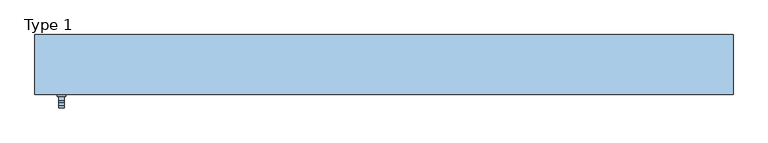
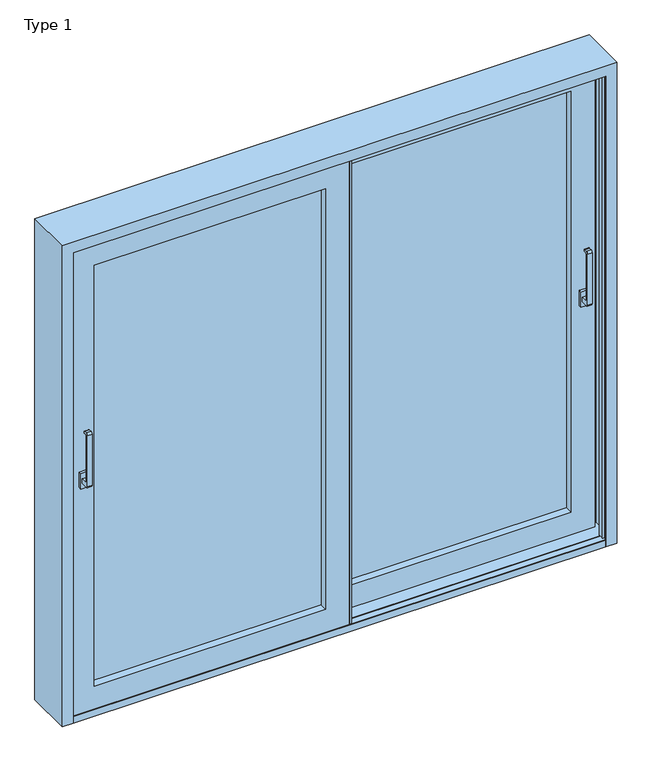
"""IFC4 building model written with IfcOpenShell, lengths in millimetres: window geometry, ETEM_ES70_Double_Fly Screen_Lift_Sliding_FR : Type 1."""

from ifc_helpers import new_model, si_unit, point, frame, frame_2d, origin, place, context, project, spatial, polyline, circle_curve, ellipse_curve, trimmed, segment, composite_curve, outline, extrude, faceted_brep, source, transform, mapped, element, save
from ifc_brep_helpers import plane_surface, cylinder_surface, revolved_surface, advanced_brep


def type_1_7f6ca0e9(model_context):
    return source(origin(), model_context, "Body", "SolidModel", [
        extrude(outline(polyline([(1123.5, 7.6), (1093.5, 7.6), (1093.5, 20.6), (1123.5, 20.6), (1123.5, 7.6)])), frame((0.0, 0.0, 1065.0), z_axis=(0.0, 0.0, 1.0), x_axis=(1.0, 0.0, 0.0)), (0.0, 0.0, 1.0), 70.0),
        extrude(outline(composite_curve([segment(polyline([(7.6, 1090.0), (-23.9736848, 1090.0)]), True, "CONTINUOUS"), segment(trimmed(circle_curve(frame_2d((-23.9736848, 1098.4263152)), 8.4263152), [point((-23.9736848, 1090.0))], [point((-32.4, 1098.4263152))], False, "CARTESIAN"), True, "CONTINUOUS"), segment(polyline([(-32.4, 1098.4263152), (-32.4, 1331.5736848)]), True, "CONTINUOUS"), segment(trimmed(circle_curve(frame_2d((-23.9736848, 1331.5736848)), 8.4263152), [point((-32.4, 1331.5736848))], [point((-23.9736848, 1340.0))], False, "CARTESIAN"), True, "CONTINUOUS"), segment(polyline([(-23.9736848, 1340.0), (-12.4, 1340.0)]), True, "CONTINUOUS"), segment(trimmed(circle_curve(frame_2d((-12.4, 1335.0)), 5.0), [point((-12.4, 1340.0))], [point((-12.4, 1330.0))], False, "CARTESIAN"), True, "CONTINUOUS"), segment(polyline([(-12.4, 1330.0), (-18.8644661, 1330.0)]), True, "CONTINUOUS"), segment(trimmed(circle_curve(frame_2d((-18.8644661, 1326.4644661)), 3.5355339), [point((-18.8644661, 1330.0))], [point((-22.4, 1326.4644661))], True, "CARTESIAN"), True, "CONTINUOUS"), segment(polyline([(-22.4, 1326.4644661), (-22.4, 1113.5355339)]), True, "CONTINUOUS"), segment(trimmed(circle_curve(frame_2d((-18.8644661, 1113.5355339)), 3.5355339), [point((-22.4, 1113.5355339))], [point((-18.8644661, 1110.0))], True, "CARTESIAN"), True, "CONTINUOUS"), segment(polyline([(-18.8644661, 1110.0), (7.6, 1110.0), (7.6, 1090.0)]), True, "CONTINUOUS")], self_intersect=False)), frame((1098.5, 0.0, 0.0), z_axis=(1.0, 0.0, 0.0), x_axis=(0.0, 1.0, 0.0)), (0.0, 0.0, 1.0), 20.0),
        extrude(outline(polyline([(-1093.5, -82.4), (-1123.5, -82.4), (-1123.5, -69.4), (-1093.5, -69.4), (-1093.5, -82.4)])), frame((0.0, 0.0, 1065.0), z_axis=(0.0, 0.0, 1.0), x_axis=(1.0, 0.0, 0.0)), (0.0, 0.0, 1.0), 70.0),
        extrude(outline(composite_curve([segment(polyline([(-82.4, 1090.0), (-113.9736848, 1090.0)]), True, "CONTINUOUS"), segment(trimmed(circle_curve(frame_2d((-113.9736848, 1098.4263152)), 8.4263152), [point((-113.9736848, 1090.0))], [point((-122.4, 1098.4263152))], False, "CARTESIAN"), True, "CONTINUOUS"), segment(polyline([(-122.4, 1098.4263152), (-122.4, 1331.5736848)]), True, "CONTINUOUS"), segment(trimmed(circle_curve(frame_2d((-113.9736848, 1331.5736848)), 8.4263152), [point((-122.4, 1331.5736848))], [point((-113.9736848, 1340.0))], False, "CARTESIAN"), True, "CONTINUOUS"), segment(polyline([(-113.9736848, 1340.0), (-102.4, 1340.0)]), True, "CONTINUOUS"), segment(trimmed(circle_curve(frame_2d((-102.4, 1335.0)), 5.0), [point((-102.4, 1340.0))], [point((-102.4, 1330.0))], False, "CARTESIAN"), True, "CONTINUOUS"), segment(polyline([(-102.4, 1330.0), (-108.8644661, 1330.0)]), True, "CONTINUOUS"), segment(trimmed(circle_curve(frame_2d((-108.8644661, 1326.4644661)), 3.5355339), [point((-108.8644661, 1330.0))], [point((-112.4, 1326.4644661))], True, "CARTESIAN"), True, "CONTINUOUS"), segment(polyline([(-112.4, 1326.4644661), (-112.4, 1113.5355339)]), True, "CONTINUOUS"), segment(trimmed(circle_curve(frame_2d((-108.8644661, 1113.5355339)), 3.5355339), [point((-112.4, 1113.5355339))], [point((-108.8644661, 1110.0))], True, "CARTESIAN"), True, "CONTINUOUS"), segment(polyline([(-108.8644661, 1110.0), (-82.4, 1110.0), (-82.4, 1090.0)]), True, "CONTINUOUS")], self_intersect=False)), frame((-1118.5, 0.0, 0.0), z_axis=(1.0, 0.0, 0.0), x_axis=(0.0, 1.0, 0.0)), (0.0, 0.0, 1.0), 20.0),
        faceted_brep([(46.5, -57.0, 2161.0), (46.5, -69.4, 2161.0), (46.5, -69.4, 30.0), (46.5, -57.0, 30.0), (-1161.0, -69.4, 2161.0), (-1161.0, -69.4, 30.0), (-56.5, -69.4, 133.0), (-1058.0, -69.4, 133.0), (-1058.0, -69.4, 2058.0), (-56.5, -69.4, 2058.0), (-1161.0, -57.0, 30.0), (-1161.0, -57.0, 2161.0), (15.4, -57.0, 2129.9), (-1129.9, -57.0, 2129.9), (-1129.9, -57.0, 61.1), (15.4, -57.0, 61.1), (15.4, -11.8, 2129.9), (15.4, -11.8, 61.1), (-1129.9, -11.8, 61.1), (46.5, -11.8, 2161.0), (-1161.0, -11.8, 2161.0), (-1161.0, -11.8, 30.0), (46.5, -11.8, 30.0), (-1129.9, -11.8, 2129.9), (46.5, 0.6, 2161.0), (46.5, 0.6, 30.0), (-1161.0, 0.6, 30.0), (-1161.0, 0.6, 2161.0), (-56.5, 0.6, 2058.0), (-1058.0, 0.6, 2058.0), (-1058.0, 0.6, 133.0), (-56.5, 0.6, 133.0)], [[[0, 1, 2, 3]], [[1, 4, 5, 2], [6, 7, 8, 9]], [[3, 2, 5, 10]], [[3, 10, 11, 0], [12, 13, 14, 15]], [[16, 12, 15, 17]], [[17, 15, 14, 18]], [[19, 20, 21, 22], [17, 18, 23, 16]], [[24, 19, 22, 25]], [[25, 22, 21, 26]], [[25, 26, 27, 24], [28, 29, 30, 31]], [[9, 28, 31, 6]], [[6, 31, 30, 7]], [[10, 5, 4, 11]], [[18, 14, 13, 23]], [[26, 21, 20, 27]], [[7, 30, 29, 8]], [[11, 4, 1, 0]], [[23, 13, 12, 16]], [[27, 20, 19, 24]], [[8, 29, 28, 9]]]),
        faceted_brep([(-46.5, 78.2, 2161.0), (-46.5, 90.6, 2161.0), (-46.5, 90.6, 30.0), (-46.5, 78.2, 30.0), (1161.0, 90.6, 30.0), (1161.0, 78.2, 30.0), (1161.0, 90.6, 2161.0), (1058.0, 90.6, 133.0), (1058.0, 90.6, 2058.0), (56.5, 90.6, 2058.0), (56.5, 90.6, 133.0), (1161.0, 78.2, 2161.0), (-15.4, 78.2, 61.1), (-15.4, 78.2, 2129.9), (1129.9, 78.2, 2129.9), (1129.9, 78.2, 61.1), (-15.4, 33.0, 2129.9), (-15.4, 33.0, 61.1), (1129.9, 33.0, 61.1), (1129.9, 33.0, 2129.9), (-46.5, 33.0, 30.0), (-46.5, 33.0, 2161.0), (1161.0, 33.0, 2161.0), (1161.0, 33.0, 30.0), (-46.5, 20.6, 2161.0), (-46.5, 20.6, 30.0), (1161.0, 20.6, 30.0), (1161.0, 20.6, 2161.0), (56.5, 20.6, 133.0), (56.5, 20.6, 2058.0), (1058.0, 20.6, 2058.0), (1058.0, 20.6, 133.0)], [[[0, 1, 2, 3]], [[3, 2, 4, 5]], [[2, 1, 6, 4], [7, 8, 9, 10]], [[5, 4, 6, 11]], [[5, 11, 0, 3], [12, 13, 14, 15]], [[16, 13, 12, 17]], [[17, 12, 15, 18]], [[18, 15, 14, 19]], [[20, 21, 22, 23], [18, 19, 16, 17]], [[24, 21, 20, 25]], [[25, 20, 23, 26]], [[26, 23, 22, 27]], [[26, 27, 24, 25], [28, 29, 30, 31]], [[9, 29, 28, 10]], [[10, 28, 31, 7]], [[7, 31, 30, 8]], [[11, 6, 1, 0]], [[19, 14, 13, 16]], [[27, 22, 21, 24]], [[8, 30, 29, 9]]]),
        extrude(outline(polyline([(56.5, -69.4), (46.5, -69.4), (46.5, 16.6), (56.5, 16.6), (56.5, -69.4)])), frame((0.0, 0.0, 30.0), z_axis=(0.0, 0.0, 1.0), x_axis=(1.0, 0.0, 0.0)), (0.0, 0.0, 1.0), 2131.0),
        extrude(outline(polyline([(-56.5, 6.6), (-56.5, 90.6), (-46.5, 90.6), (-46.5, 6.6), (-56.5, 6.6)])), frame((0.0, 0.0, 30.0), z_axis=(0.0, 0.0, 1.0), x_axis=(1.0, 0.0, 0.0)), (0.0, 0.0, 1.0), 2131.0),
        extrude(outline(polyline([(-56.5, -35.3992409), (-1058.0, -35.3992409), (-1058.0, -29.3992409), (-56.5, -29.3992409), (-56.5, -35.3992409)])), frame((0.0, 0.0, 133.0), z_axis=(0.0, 0.0, 1.0), x_axis=(1.0, 0.0, 0.0)), (0.0, 0.0, 1.0), 1925.0),
        extrude(outline(polyline([(56.5, 82.6007591), (1058.0, 82.6007591), (1058.0, 76.6007591), (56.5, 76.6007591), (56.5, 82.6007591)])), frame((0.0, 0.0, 133.0), z_axis=(0.0, 0.0, 1.0), x_axis=(1.0, 0.0, 0.0)), (0.0, 0.0, 1.0), 1925.0),
        faceted_brep([(1200.0, -76.0, 2200.0), (1200.0, -76.0, 0.0), (1200.0, 130.0, 0.0), (1200.0, 130.0, 2200.0), (1183.7, 60.1, 2183.7), (1183.7, 109.1, 2183.7), (1183.7, 109.1, 0.0), (1183.7, 60.1, 0.0), (1160.0, 74.1, 2160.0), (1160.0, 60.1, 2160.0), (1160.0, 60.1, 0.0), (1160.0, 74.1, 0.0), (1152.0, 51.1, 2152.0), (1152.0, 74.1, 2152.0), (1152.0, 74.1, 0.0), (1152.0, 51.1, 0.0), (1183.7, -29.9, 2183.7), (1183.7, 51.1, 2183.7), (1183.7, 51.1, 0.0), (1183.7, -29.9, 0.0), (1152.0, -52.9, 2152.0), (1152.0, -29.9, 2152.0), (1152.0, -29.9, 0.0), (1152.0, -52.9, 0.0), (1160.0, -38.9, 2160.0), (1160.0, -52.9, 2160.0), (1160.0, -52.9, 0.0), (1160.0, -38.9, 0.0), (1183.7, -72.2, 2183.7), (1183.7, -38.9, 2183.7), (1183.7, -38.9, 0.0), (1183.7, -72.2, 0.0), (1152.0, -76.0, 2152.0), (1152.0, -72.2, 2152.0), (1152.0, -72.2, 0.0), (1152.0, -76.0, 0.0), (-1200.0, -76.0, 0.0), (-1200.0, -76.0, 2200.0), (-1200.0, 130.0, 2200.0), (-1200.0, 130.0, 0.0), (-1183.7, 60.1, 0.0), (-1183.7, 109.1, 0.0), (-1183.7, 109.1, 2183.7), (-1183.7, 60.1, 2183.7), (-1160.0, 74.1, 0.0), (-1160.0, 60.1, 0.0), (-1160.0, 60.1, 2160.0), (-1160.0, 74.1, 2160.0), (-1152.0, 51.1, 0.0), (-1152.0, 74.1, 0.0), (-1152.0, 74.1, 2152.0), (-1152.0, 51.1, 2152.0), (-1183.7, -29.9, 0.0), (-1183.7, 51.1, 0.0), (-1183.7, 51.1, 2183.7), (-1183.7, -29.9, 2183.7), (-1152.0, -52.9, 0.0), (-1152.0, -29.9, 0.0), (-1152.0, -29.9, 2152.0), (-1152.0, -52.9, 2152.0), (-1160.0, -38.9, 0.0), (-1160.0, -52.9, 0.0), (-1160.0, -52.9, 2160.0), (-1160.0, -38.9, 2160.0), (-1183.7, -72.2, 0.0), (-1183.7, -38.9, 0.0), (-1183.7, -38.9, 2183.7), (-1183.7, -72.2, 2183.7), (-1152.0, -76.0, 0.0), (-1152.0, -72.2, 0.0), (-1152.0, -72.2, 2152.0), (-1152.0, -76.0, 2152.0), (-1183.7, 118.1, 0.0), (-1183.7, 130.0, 0.0), (-1183.7, 130.0, 2183.7), (-1183.7, 118.1, 2183.7), (1183.7, 118.1, 2183.7), (1183.7, 130.0, 2183.7), (1183.7, 130.0, 0.0), (1183.7, 118.1, 0.0), (1152.0, 109.1, 2152.0), (1152.0, 118.1, 2152.0), (1152.0, 118.1, 0.0), (1152.0, 109.1, 0.0), (-1152.0, 109.1, 0.0), (-1152.0, 118.1, 0.0), (-1152.0, 118.1, 2152.0), (-1152.0, 109.1, 2152.0)], [[[0, 1, 2, 3]], [[4, 5, 6, 7]], [[8, 9, 10, 11]], [[12, 13, 14, 15]], [[16, 17, 18, 19]], [[20, 21, 22, 23]], [[24, 25, 26, 27]], [[28, 29, 30, 31]], [[32, 33, 34, 35]], [[36, 37, 38, 39]], [[40, 41, 42, 43]], [[44, 45, 46, 47]], [[48, 49, 50, 51]], [[52, 53, 54, 55]], [[56, 57, 58, 59]], [[60, 61, 62, 63]], [[64, 65, 66, 67]], [[68, 69, 70, 71]], [[72, 73, 74, 75]], [[76, 77, 78, 79]], [[80, 81, 82, 83]], [[84, 85, 86, 87]], [[38, 37, 0, 3]], [[43, 42, 5, 4]], [[47, 46, 9, 8]], [[51, 50, 13, 12]], [[55, 54, 17, 16]], [[59, 58, 21, 20]], [[63, 62, 25, 24]], [[67, 66, 29, 28]], [[71, 70, 33, 32]], [[75, 74, 77, 76]], [[87, 86, 81, 80]], [[36, 39, 73, 72, 85, 84, 41, 40, 45, 44, 49, 48, 53, 52, 57, 56, 61, 60, 65, 64, 69, 68]], [[73, 39, 38, 3, 2, 78, 77, 74]], [[85, 72, 75, 76, 79, 82, 81, 86]], [[41, 84, 87, 80, 83, 6, 5, 42]], [[45, 40, 43, 4, 7, 10, 9, 46]], [[49, 44, 47, 8, 11, 14, 13, 50]], [[53, 48, 51, 12, 15, 18, 17, 54]], [[57, 52, 55, 16, 19, 22, 21, 58]], [[61, 56, 59, 20, 23, 26, 25, 62]], [[65, 60, 63, 24, 27, 30, 29, 66]], [[69, 64, 67, 28, 31, 34, 33, 70]], [[36, 68, 71, 32, 35, 1, 0, 37]], [[2, 1, 35, 34, 31, 30, 27, 26, 23, 22, 19, 18, 15, 14, 11, 10, 7, 6, 83, 82, 79, 78]]]),
        extrude(outline(polyline([(56.5, 60.6007591), (1058.0, 60.6007591), (1058.0, 54.6007591), (56.5, 54.6007591), (56.5, 60.6007591)])), frame((0.0, 0.0, 133.0), z_axis=(0.0, 0.0, 1.0), x_axis=(1.0, 0.0, 0.0)), (0.0, 0.0, 1.0), 1925.0),
        extrude(outline(polyline([(-56.5, -13.3992409), (-1058.0, -13.3992409), (-1058.0, -7.3992409), (-56.5, -7.3992409), (-56.5, -13.3992409)])), frame((0.0, 0.0, 133.0), z_axis=(0.0, 0.0, 1.0), x_axis=(1.0, 0.0, 0.0)), (0.0, 0.0, 1.0), 1925.0),
        extrude(outline(polyline([(-52.2934837, 101.6138518), (-1100.0, 101.6138518), (-1100.0, 102.6084823), (-52.2934837, 102.6084823), (-52.2934837, 101.6138518)])), frame((0.0, 0.0, 91.0), z_axis=(0.0, 0.0, 1.0), x_axis=(1.0, 0.0, 0.0)), (0.0, 0.0, 1.0), 2009.0),
        advanced_brep(
        [(8.7065163, 97.5946304, 2161.0), (-1161.0, 97.5946304, 2161.0), (-1161.0, 97.5946304, 30.0), (8.7065163, 97.5946304, 30.0), (-26.9934837, 97.5946304, 65.7), (-1125.3, 97.5946304, 65.7), (-1125.3, 97.5946304, 2125.3), (-26.9934837, 97.5946304, 2125.3), (8.7065163, 104.7946304, 2161.0), (8.7065163, 104.7946304, 30.0), (-1161.0, 104.7946304, 30.0), (-1161.0, 104.7946304, 2161.0), (-3.4934837, 104.7946304, 2148.8), (-1148.8, 104.7946304, 2148.8), (-1148.8, 104.7946304, 42.2), (-3.4934837, 104.7946304, 42.2), (-3.4934837, 122.3946304, 2148.8), (-3.4934837, 122.3946304, 42.2), (-1148.8, 122.3946304, 42.2), (8.7065163, 122.3946304, 2161.0), (-1161.0, 122.3946304, 2161.0), (-1161.0, 122.3946304, 30.0), (8.7065163, 122.3946304, 30.0), (-1148.8, 122.3946304, 2148.8), (8.7065163, 129.5946304, 2161.0), (8.7065163, 129.5946304, 30.0), (-1161.0, 129.5946304, 30.0), (-1161.0, 129.5946304, 2161.0), (-26.9934837, 129.5946304, 2125.3), (-1125.3, 129.5946304, 2125.3), (-1125.3, 129.5946304, 65.7), (-26.9934837, 129.5946304, 65.7), (-56.2934837, 102.6084823, 2096.0), (-56.2934837, 129.5946304, 2096.0), (-56.2934837, 129.5946304, 95.0), (-56.2934837, 102.6084823, 95.0), (-1096.0, 129.5946304, 95.0), (-1096.0, 102.6084823, 95.0), (-48.8934837, 102.6084823, 2103.4), (-1103.4, 102.6084823, 2103.4), (-1103.4, 102.6084823, 87.6), (-48.8934837, 102.6084823, 87.6), (-1096.0, 102.6084823, 2096.0), (-1096.0, 129.5946304, 2096.0), (-26.9934837, 106.5946304, 65.7), (-1125.3, 106.5946304, 65.7), (-1125.3, 106.5946304, 2125.3), (-26.9934837, 106.5946304, 2125.3), (-1125.3, 120.3946304, 65.7), (-1125.3, 120.3946304, 2125.3), (-26.9934837, 120.3946304, 65.7), (-26.9934837, 120.3946304, 2125.3), (-47.4934837, 106.5946304, 2104.8), (-47.4934837, 100.4946304, 2104.8), (-47.4934837, 100.4946304, 86.2), (-47.4934837, 106.5946304, 86.2), (-46.9482159, 99.9966838, 2105.3452679), (-46.9482159, 99.9966838, 85.6547321), (-1104.8, 100.4946304, 86.2), (-1104.8, 106.5946304, 86.2), (-1104.8, 106.5946304, 2104.8), (-43.7934837, 120.3946304, 2108.5), (-1108.5, 120.3946304, 2108.5), (-1108.5, 120.3946304, 82.5), (-43.7934837, 120.3946304, 82.5), (-1105.3452679, 99.9966838, 85.6547321), (-1104.8, 100.4946304, 2104.8), (-1105.3452679, 99.9966838, 2105.3452679), (-1103.4, 98.7946304, 87.6), (-1103.4, 98.7946304, 2103.4), (-48.8934837, 98.7946304, 87.6), (-48.8934837, 98.7946304, 2103.4), (-46.8934837, 98.7946304, 2105.4), (-1105.4, 98.7946304, 2105.4), (-1105.4, 98.7946304, 85.6), (-46.8934837, 98.7946304, 85.6), (-43.7934837, 129.5946304, 82.5), (-1108.5, 129.5946304, 82.5), (-1108.5, 129.5946304, 2108.5), (-43.7934837, 129.5946304, 2108.5)],
        [
            (0, 1),
            (1, 2),
            (2, 3),
            (3, 0),
            (4, 5),
            (5, 6),
            (6, 7),
            (7, 4),
            (8, 0),
            (3, 9),
            (9, 8),
            (2, 10),
            (10, 9),
            (10, 11),
            (11, 8),
            (12, 13),
            (13, 14),
            (14, 15),
            (15, 12),
            (16, 12),
            (15, 17),
            (17, 16),
            (14, 18),
            (18, 17),
            (19, 20),
            (20, 21),
            (21, 22),
            (22, 19),
            (18, 23),
            (23, 16),
            (24, 19),
            (22, 25),
            (25, 24),
            (21, 26),
            (26, 25),
            (26, 27),
            (27, 24),
            (28, 29),
            (29, 30),
            (30, 31),
            (31, 28),
            (32, 33),
            (33, 34),
            (34, 35),
            (35, 32),
            (34, 36),
            (36, 37),
            (37, 35),
            (38, 39),
            (39, 40),
            (40, 41),
            (41, 38),
            (37, 42),
            (42, 32),
            (1, 11),
            (13, 23),
            (20, 27),
            (36, 43),
            (43, 42),
            (4, 44),
            (44, 45),
            (45, 5),
            (45, 46),
            (46, 6),
            (7, 47),
            (47, 44),
            (48, 30),
            (29, 49),
            (49, 48),
            (50, 31),
            (48, 50),
            (51, 28),
            (50, 51),
            (52, 53),
            (53, 54),
            (54, 55),
            (55, 52),
            (53, 56, ellipse_curve(frame((-46.9934837, 100.4946304, 2105.3), z_axis=(-0.7071067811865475, 0.0, 0.7071067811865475), x_axis=(-0.7071067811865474, 0.0, -0.7071067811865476)), 0.7071068, 0.5)),
            (56, 57),
            (57, 54, ellipse_curve(frame((-46.9934837, 100.4946304, 85.7), z_axis=(-0.7071067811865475, 0.0, -0.7071067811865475), x_axis=(0.7071067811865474, 0.0, -0.7071067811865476)), 0.7071068, 0.5)),
            (54, 58),
            (58, 59),
            (59, 55),
            (47, 46),
            (59, 60),
            (60, 52),
            (49, 51),
            (61, 62),
            (62, 63),
            (63, 64),
            (64, 61),
            (57, 65),
            (65, 58, ellipse_curve(frame((-1105.3, 100.4946304, 85.7), z_axis=(-0.7071067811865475, 0.0, 0.7071067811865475), x_axis=(-0.7071067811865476, 0.0, -0.7071067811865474)), 0.7071068, 0.5)),
            (58, 66),
            (66, 60),
            (65, 67),
            (67, 66, ellipse_curve(frame((-1105.3, 100.4946304, 2105.3), z_axis=(0.7071067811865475, 0.0, 0.7071067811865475), x_axis=(-0.7071067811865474, 0.0, 0.7071067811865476)), 0.7071068, 0.5)),
            (68, 40),
            (39, 69),
            (69, 68),
            (70, 41),
            (68, 70),
            (71, 38),
            (70, 71),
            (72, 73),
            (73, 74),
            (74, 75),
            (75, 72),
            (69, 71),
            (65, 74, ellipse_curve(frame((-1105.4, 99.3946304, 85.6), z_axis=(-0.7071067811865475, 0.0, 0.7071067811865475), x_axis=(-0.7071067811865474, 0.0, -0.7071067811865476)), 0.8485281, 0.6)),
            (73, 67, ellipse_curve(frame((-1105.4, 99.3946304, 2105.4), z_axis=(-0.7071067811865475, 0.0, -0.7071067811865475), x_axis=(0.7071067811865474, 0.0, -0.7071067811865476)), 0.8485281, 0.6)),
            (57, 75, ellipse_curve(frame((-46.8934837, 99.3946304, 85.6), z_axis=(-0.7071067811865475, 0.0, -0.7071067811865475), x_axis=(0.7071067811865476, 0.0, -0.7071067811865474)), 0.8485281, 0.6)),
            (56, 72, ellipse_curve(frame((-46.8934837, 99.3946304, 2105.4), z_axis=(0.7071067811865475, 0.0, -0.7071067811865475), x_axis=(0.7071067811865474, 0.0, 0.7071067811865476)), 0.8485281, 0.6)),
            (43, 33),
            (66, 53),
            (56, 67),
            (76, 77),
            (77, 78),
            (78, 79),
            (79, 76),
            (77, 63),
            (62, 78),
            (76, 64),
            (79, 61),
        ],
        [
            plane_surface(frame((-1125.3, 97.5946304, 2125.3), z_axis=(0.0, -1.0, 0.0), x_axis=(1.0, 0.0, 0.0))),
            plane_surface(frame((8.7065163, 97.5946304, 2161.0), z_axis=(1.0, 0.0, 0.0), x_axis=(0.0, 0.0, -1.0))),
            plane_surface(frame((8.7065163, 97.5946304, 30.0), z_axis=(0.0, 0.0, -1.0), x_axis=(-1.0, 0.0, 0.0))),
            plane_surface(frame((-1161.0, 104.7946304, 2161.0), z_axis=(0.0, 1.0, 0.0), x_axis=(1.0, 0.0, 0.0))),
            plane_surface(frame((-3.4934837, 104.7946304, 2148.8), z_axis=(1.0, 0.0, 0.0), x_axis=(0.0, 0.0, -1.0))),
            plane_surface(frame((-3.4934837, 104.7946304, 42.2), z_axis=(0.0, 0.0, -1.0), x_axis=(-1.0, 0.0, 0.0))),
            plane_surface(frame((-1148.8, 122.3946304, 2148.8), z_axis=(0.0, -1.0, 0.0), x_axis=(1.0, 0.0, 0.0))),
            plane_surface(frame((8.7065163, 122.3946304, 2161.0), z_axis=(1.0, 0.0, 0.0), x_axis=(0.0, 0.0, -1.0))),
            plane_surface(frame((8.7065163, 122.3946304, 30.0), z_axis=(0.0, 0.0, -1.0), x_axis=(-1.0, 0.0, 0.0))),
            plane_surface(frame((-1161.0, 129.5946304, 2161.0), z_axis=(0.0, 1.0, 0.0), x_axis=(1.0, 0.0, 0.0))),
            plane_surface(frame((-56.2934837, 129.5946304, 2096.0), z_axis=(-1.0, 0.0, 0.0), x_axis=(0.0, 0.0, -1.0))),
            plane_surface(frame((-56.2934837, 129.5946304, 95.0), z_axis=(0.0, 0.0, 1.0), x_axis=(-1.0, 0.0, 0.0))),
            plane_surface(frame((-1096.0, 102.6084823, 2096.0), z_axis=(0.0, -1.0, 0.0), x_axis=(1.0, 0.0, 0.0))),
            plane_surface(frame((-1161.0, 97.5946304, 30.0), z_axis=(-1.0, 0.0, 0.0), x_axis=(0.0, 0.0, 1.0))),
            plane_surface(frame((-1148.8, 104.7946304, 42.2), z_axis=(-1.0, 0.0, 0.0), x_axis=(0.0, 0.0, 1.0))),
            plane_surface(frame((-1161.0, 122.3946304, 30.0), z_axis=(-1.0, 0.0, 0.0), x_axis=(0.0, 0.0, 1.0))),
            plane_surface(frame((-1096.0, 129.5946304, 95.0), z_axis=(1.0, 0.0, 0.0), x_axis=(0.0, 0.0, 1.0))),
            plane_surface(frame((-26.9934837, 106.5946304, 65.7), z_axis=(0.0, 0.0, 1.0), x_axis=(-1.0, 0.0, 0.0))),
            plane_surface(frame((-1125.3, 106.5946304, 65.7), z_axis=(1.0, 0.0, 0.0), x_axis=(0.0, 0.0, 1.0))),
            plane_surface(frame((-26.9934837, 106.5946304, 2125.3), z_axis=(-1.0, 0.0, 0.0), x_axis=(0.0, 0.0, -1.0))),
            plane_surface(frame((-1125.3, 129.5946304, 65.7), z_axis=(1.0, 0.0, 0.0), x_axis=(0.0, 0.0, 1.0))),
            plane_surface(frame((-26.9934837, 129.5946304, 65.7), z_axis=(0.0, 0.0, 1.0), x_axis=(-1.0, 0.0, 0.0))),
            plane_surface(frame((-26.9934837, 129.5946304, 2125.3), z_axis=(-1.0, 0.0, 0.0), x_axis=(0.0, 0.0, -1.0))),
            plane_surface(frame((-47.4934837, 100.4946304, 2104.8), z_axis=(1.0, 0.0, 0.0), x_axis=(0.0, 0.0, -1.0))),
            revolved_surface(polyline([(-46.4934837, 100.4946304, 85.19999998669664), (-46.4934837, 100.4946304, 2105.8000000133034)]), (-46.9934837, 100.4946304, 2161.0), (0.0, 0.0, -1.0)),
            plane_surface(frame((-47.4934837, 100.4946304, 86.2), z_axis=(0.0, 0.0, -1.0), x_axis=(-1.0, 0.0, 0.0))),
            plane_surface(frame((-1104.8, 106.5946304, 2104.8), z_axis=(0.0, -1.0, 0.0), x_axis=(1.0, 0.0, 0.0))),
            plane_surface(frame((-1125.3, 120.3946304, 2125.3), z_axis=(0.0, 1.0, 0.0), x_axis=(1.0, 0.0, 0.0))),
            revolved_surface(polyline([(-1105.8000000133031, 100.4946304, 85.2), (-46.49348368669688, 100.4946304, 85.2)]), (8.7065163, 100.4946304, 85.7), (-1.0, 0.0, 0.0)),
            plane_surface(frame((-1104.8, 100.4946304, 86.2), z_axis=(-1.0, 0.0, 0.0), x_axis=(0.0, 0.0, 1.0))),
            revolved_surface(polyline([(-1105.8, 100.4946304, 2105.8000000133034), (-1105.8, 100.4946304, 85.19999998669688)]), (-1105.3, 100.4946304, 30.0), (0.0, 0.0, 1.0)),
            plane_surface(frame((-1103.4, 102.6084823, 87.6), z_axis=(1.0, 0.0, 0.0), x_axis=(0.0, 0.0, 1.0))),
            plane_surface(frame((-48.8934837, 102.6084823, 87.6), z_axis=(0.0, 0.0, 1.0), x_axis=(-1.0, 0.0, 0.0))),
            plane_surface(frame((-48.8934837, 102.6084823, 2103.4), z_axis=(-1.0, 0.0, 0.0), x_axis=(0.0, 0.0, -1.0))),
            plane_surface(frame((-1103.4, 98.7946304, 2103.4), z_axis=(0.0, -1.0, 0.0), x_axis=(1.0, 0.0, 0.0))),
            cylinder_surface(frame((-1105.4, 99.3946304, 30.0), z_axis=(0.0, 0.0, -1.0), x_axis=(-1.0, 0.0, 0.0)), 0.6),
            cylinder_surface(frame((8.7065163, 99.3946304, 85.6), z_axis=(1.0, 0.0, 0.0), x_axis=(0.0, 0.0, -1.0)), 0.6),
            cylinder_surface(frame((-46.8934837, 99.3946304, 2161.0), z_axis=(0.0, 0.0, 1.0), x_axis=(1.0, 0.0, 0.0)), 0.6),
            plane_surface(frame((-1161.0, 97.5946304, 2161.0), z_axis=(0.0, 0.0, 1.0), x_axis=(1.0, 0.0, 0.0))),
            plane_surface(frame((-1148.8, 104.7946304, 2148.8), z_axis=(0.0, 0.0, 1.0), x_axis=(1.0, 0.0, 0.0))),
            plane_surface(frame((-1161.0, 122.3946304, 2161.0), z_axis=(0.0, 0.0, 1.0), x_axis=(1.0, 0.0, 0.0))),
            plane_surface(frame((-1096.0, 129.5946304, 2096.0), z_axis=(0.0, 0.0, -1.0), x_axis=(1.0, 0.0, 0.0))),
            plane_surface(frame((-1104.8, 100.4946304, 2104.8), z_axis=(0.0, 0.0, 1.0), x_axis=(1.0, 0.0, 0.0))),
            plane_surface(frame((-1125.3, 106.5946304, 2125.3), z_axis=(0.0, 0.0, -1.0), x_axis=(1.0, 0.0, 0.0))),
            plane_surface(frame((-1125.3, 129.5946304, 2125.3), z_axis=(0.0, 0.0, -1.0), x_axis=(1.0, 0.0, 0.0))),
            plane_surface(frame((-1103.4, 102.6084823, 2103.4), z_axis=(0.0, 0.0, -1.0), x_axis=(1.0, 0.0, 0.0))),
            cylinder_surface(frame((-1161.0, 99.3946304, 2105.4), z_axis=(-1.0, 0.0, 0.0), x_axis=(0.0, 0.0, 1.0)), 0.6),
            revolved_surface(polyline([(-46.49348368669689, 100.4946304, 2105.8), (-1105.8000000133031, 100.4946304, 2105.8)]), (-1161.0, 100.4946304, 2105.3), (1.0, 0.0, 0.0)),
            plane_surface(frame((-1108.5, 129.5946304, 2108.5), z_axis=(0.0, 1.0, 0.0), x_axis=(1.0, 0.0, 0.0))),
            plane_surface(frame((-1108.5, 120.3946304, 82.5), z_axis=(-1.0, 0.0, 0.0), x_axis=(0.0, 0.0, 1.0))),
            plane_surface(frame((-43.7934837, 120.3946304, 82.5), z_axis=(0.0, 0.0, -1.0), x_axis=(-1.0, 0.0, 0.0))),
            plane_surface(frame((-43.7934837, 120.3946304, 2108.5), z_axis=(1.0, 0.0, 0.0), x_axis=(0.0, 0.0, -1.0))),
            plane_surface(frame((-1108.5, 120.3946304, 2108.5), z_axis=(0.0, 0.0, 1.0), x_axis=(1.0, 0.0, 0.0))),
        ],
        [
            (0, [[1, 2, 3, 4], [5, 6, 7, 8]]),
            (1, [[9, -4, 10, 11]]),
            (2, [[-10, -3, 12, 13]]),
            (3, [[-13, 14, 15, -11], [16, 17, 18, 19]]),
            (4, [[20, -19, 21, 22]]),
            (5, [[-21, -18, 23, 24]]),
            (6, [[25, 26, 27, 28], [-24, 29, 30, -22]]),
            (7, [[31, -28, 32, 33]]),
            (8, [[-32, -27, 34, 35]]),
            (9, [[-35, 36, 37, -33], [38, 39, 40, 41]]),
            (10, [[42, 43, 44, 45]]),
            (11, [[-44, 46, 47, 48]]),
            (12, [[49, 50, 51, 52], [-48, 53, 54, -45]]),
            (13, [[-12, -2, 55, -14]]),
            (14, [[-23, -17, 56, -29]]),
            (15, [[-34, -26, 57, -36]]),
            (16, [[-47, 58, 59, -53]]),
            (17, [[60, 61, 62, -5]]),
            (18, [[-62, 63, 64, -6]]),
            (19, [[65, 66, -60, -8]]),
            (20, [[67, -39, 68, 69]]),
            (21, [[70, -40, -67, 71]]),
            (22, [[72, -41, -70, 73]]),
            (23, [[74, 75, 76, 77]]),
            (24, [[78, 79, 80, -75]]),
            (25, [[-76, 81, 82, 83]]),
            (26, [[84, -63, -61, -66], [-83, 85, 86, -77]]),
            (27, [[-71, -69, 87, -73], [88, 89, 90, 91]]),
            (28, [[-80, 92, 93, -81]]),
            (29, [[-82, 94, 95, -85]]),
            (30, [[-93, 96, 97, -94]]),
            (31, [[98, -50, 99, 100]]),
            (32, [[101, -51, -98, 102]]),
            (33, [[103, -52, -101, 104]]),
            (34, [[105, 106, 107, 108], [-102, -100, 109, -104]]),
            (35, [[110, -106, 111, -96]]),
            (36, [[112, -107, -110, -92]]),
            (37, [[113, -108, -112, -79]]),
            (38, [[-55, -1, -9, -15]]),
            (39, [[-56, -16, -20, -30]]),
            (40, [[-57, -25, -31, -37]]),
            (41, [[-59, 114, -42, -54]]),
            (42, [[-95, 115, -74, -86]]),
            (43, [[-64, -84, -65, -7]]),
            (44, [[-68, -38, -72, -87]]),
            (45, [[-99, -49, -103, -109]]),
            (46, [[-111, -105, -113, 116]]),
            (47, [[-97, -116, -78, -115]]),
            (48, [[117, 118, 119, 120], [-114, -58, -46, -43]]),
            (49, [[121, -89, 122, -118]]),
            (50, [[123, -90, -121, -117]]),
            (51, [[124, -91, -123, -120]]),
            (52, [[-122, -88, -124, -119]]),
        ],
    ),
        faceted_brep([(1183.7, 128.0, 0.0), (-1183.7, 128.0, 0.0), (-1183.7, 128.0, 25.0), (1183.7, 128.0, 25.0), (-1183.7, 118.1, 25.0), (-1152.0, 118.1, 25.0), (-1152.0, 116.0, 25.0), (1152.0, 116.0, 25.0), (1152.0, 118.1, 25.0), (1183.7, 118.1, 25.0), (1152.0, 58.0, 25.0), (-1152.0, 58.0, 25.0), (-1152.0, 58.0, 21.0), (1152.0, 58.0, 21.0), (-1152.0, 53.0, 21.0), (1152.0, 53.0, 21.0), (-1152.0, 53.0, 25.0), (1152.0, 53.0, 25.0), (-1152.0, 51.1, 25.0), (-1183.7, 51.1, 25.0), (-1183.7, -29.9, 25.0), (-1152.0, -29.9, 25.0), (-1152.0, -32.0, 25.0), (1152.0, -32.0, 25.0), (1152.0, -29.9, 25.0), (1183.7, -29.9, 25.0), (1183.7, 51.1, 25.0), (1152.0, 51.1, 25.0), (-1152.0, -32.0, 21.0), (1152.0, -32.0, 21.0), (-1152.0, -36.8, 21.0), (1152.0, -36.8, 21.0), (-1152.0, -36.8, 25.0), (1152.0, -36.8, 25.0), (-1152.0, -52.9, 25.0), (-1160.0, -52.9, 25.0), (-1160.0, -38.9, 25.0), (-1183.7, -38.9, 25.0), (-1183.7, -72.0, 25.0), (-1152.0, -72.0, 25.0), (1152.0, -72.0, 25.0), (1183.7, -72.0, 25.0), (1183.7, -38.9, 25.0), (1160.0, -38.9, 25.0), (1160.0, -52.9, 25.0), (1152.0, -52.9, 25.0), (1152.0, -76.0, 30.0), (-1152.0, -76.0, 30.0), (-1152.0, -76.0, 0.0), (1152.0, -76.0, 0.0), (1183.7, 118.1, 0.0), (1152.0, 118.1, 0.0), (1152.0, 109.1, 0.0), (1183.7, 109.1, 0.0), (1183.7, 60.1, 0.0), (1160.0, 60.1, 0.0), (1160.0, 74.1, 0.0), (1152.0, 74.1, 0.0), (1152.0, 51.1, 0.0), (1183.7, 51.1, 0.0), (1183.7, -29.9, 0.0), (1152.0, -29.9, 0.0), (1152.0, -52.9, 0.0), (1160.0, -52.9, 0.0), (1160.0, -38.9, 0.0), (1183.7, -38.9, 0.0), (1183.7, -72.0, 0.0), (1152.0, -72.0, 0.0), (-1152.0, -72.0, 0.0), (-1183.7, -72.0, 0.0), (-1183.7, -38.9, 0.0), (-1160.0, -38.9, 0.0), (-1160.0, -52.9, 0.0), (-1152.0, -52.9, 0.0), (-1152.0, -29.9, 0.0), (-1183.7, -29.9, 0.0), (-1183.7, 51.1, 0.0), (-1152.0, 51.1, 0.0), (-1152.0, 74.1, 0.0), (-1160.0, 74.1, 0.0), (-1160.0, 60.1, 0.0), (-1183.7, 60.1, 0.0), (-1183.7, 109.1, 0.0), (-1152.0, 109.1, 0.0), (-1152.0, 118.1, 0.0), (-1183.7, 118.1, 0.0), (-1152.0, 116.0, 21.0), (1152.0, 116.0, 21.0), (-1152.0, 111.0, 21.0), (1152.0, 111.0, 21.0), (-1152.0, 111.0, 25.0), (1152.0, 111.0, 25.0), (1152.0, 74.1, 25.0), (1160.0, 74.1, 25.0), (1160.0, 60.1, 25.0), (1183.7, 60.1, 25.0), (1183.7, 109.1, 25.0), (1152.0, 109.1, 25.0), (-1152.0, 109.1, 25.0), (-1183.7, 109.1, 25.0), (-1183.7, 60.1, 25.0), (-1160.0, 60.1, 25.0), (-1160.0, 74.1, 25.0), (-1152.0, 74.1, 25.0), (-1152.0, -72.0, 30.0), (1152.0, -72.0, 30.0)], [[[0, 1, 2, 3]], [[3, 2, 4, 5, 6, 7, 8, 9]], [[10, 11, 12, 13]], [[13, 12, 14, 15]], [[15, 14, 16, 17]], [[17, 16, 18, 19, 20, 21, 22, 23, 24, 25, 26, 27]], [[23, 22, 28, 29]], [[29, 28, 30, 31]], [[31, 30, 32, 33]], [[33, 32, 34, 35, 36, 37, 38, 39, 40, 41, 42, 43, 44, 45]], [[46, 47, 48, 49]], [[1, 0, 50, 51, 52, 53, 54, 55, 56, 57, 58, 59, 60, 61, 62, 63, 64, 65, 66, 67, 49, 48, 68, 69, 70, 71, 72, 73, 74, 75, 76, 77, 78, 79, 80, 81, 82, 83, 84, 85]], [[7, 6, 86, 87]], [[87, 86, 88, 89]], [[89, 88, 90, 91]], [[11, 10, 92, 93, 94, 95, 96, 97, 91, 90, 98, 99, 100, 101, 102, 103]], [[40, 39, 104, 105]], [[47, 46, 105, 104]], [[39, 68, 48, 47, 104]], [[68, 39, 38, 69]], [[69, 38, 37, 70]], [[70, 37, 36, 71]], [[71, 36, 35, 72]], [[72, 35, 34, 73]], [[73, 34, 32, 30, 28, 22, 21, 74]], [[74, 21, 20, 75]], [[75, 20, 19, 76]], [[76, 19, 18, 77]], [[77, 18, 16, 14, 12, 11, 103, 78]], [[78, 103, 102, 79]], [[79, 102, 101, 80]], [[80, 101, 100, 81]], [[81, 100, 99, 82]], [[82, 99, 98, 83]], [[83, 98, 90, 88, 86, 6, 5, 84]], [[84, 5, 4, 85]], [[85, 4, 2, 1]], [[9, 50, 0, 3]], [[50, 9, 8, 51]], [[51, 8, 7, 87, 89, 91, 97, 52]], [[52, 97, 96, 53]], [[53, 96, 95, 54]], [[54, 95, 94, 55]], [[55, 94, 93, 56]], [[56, 93, 92, 57]], [[57, 92, 10, 13, 15, 17, 27, 58]], [[58, 27, 26, 59]], [[59, 26, 25, 60]], [[60, 25, 24, 61]], [[61, 24, 23, 29, 31, 33, 45, 62]], [[62, 45, 44, 63]], [[63, 44, 43, 64]], [[64, 43, 42, 65]], [[41, 66, 65, 42]], [[66, 41, 40, 67]], [[67, 40, 105, 46, 49]]]),
    ])


if __name__ == "__main__":
    model = new_model("IFC4")
    model_context = context("Model", 3, world=origin())
    ifc_project = project(units=[si_unit("LENGTHUNIT", "METRE", prefix="MILLI")], contexts=[model_context])
    site = spatial("IfcSite", under=ifc_project)
    building = spatial("IfcBuilding", under=site)
    placement = place(None, origin())
    type_1_shape = type_1_7f6ca0e9(model_context)
    element("IfcWindow", 1, ObjectType="ETEM_ES70_Double_Fly Screen_Lift_Sliding_FR : Type 1", at=placement, inside=building, context=model_context, shape_type="MappedRepresentation", body=[
        mapped(type_1_shape, transform((0.0, 0.0, 0.0), x_axis=(1.0, 0.0, 0.0), y_axis=(0.0, 1.0, 0.0), z_axis=(0.0, 0.0, 1.0))),
    ])
    save(model, "model.ifc")
